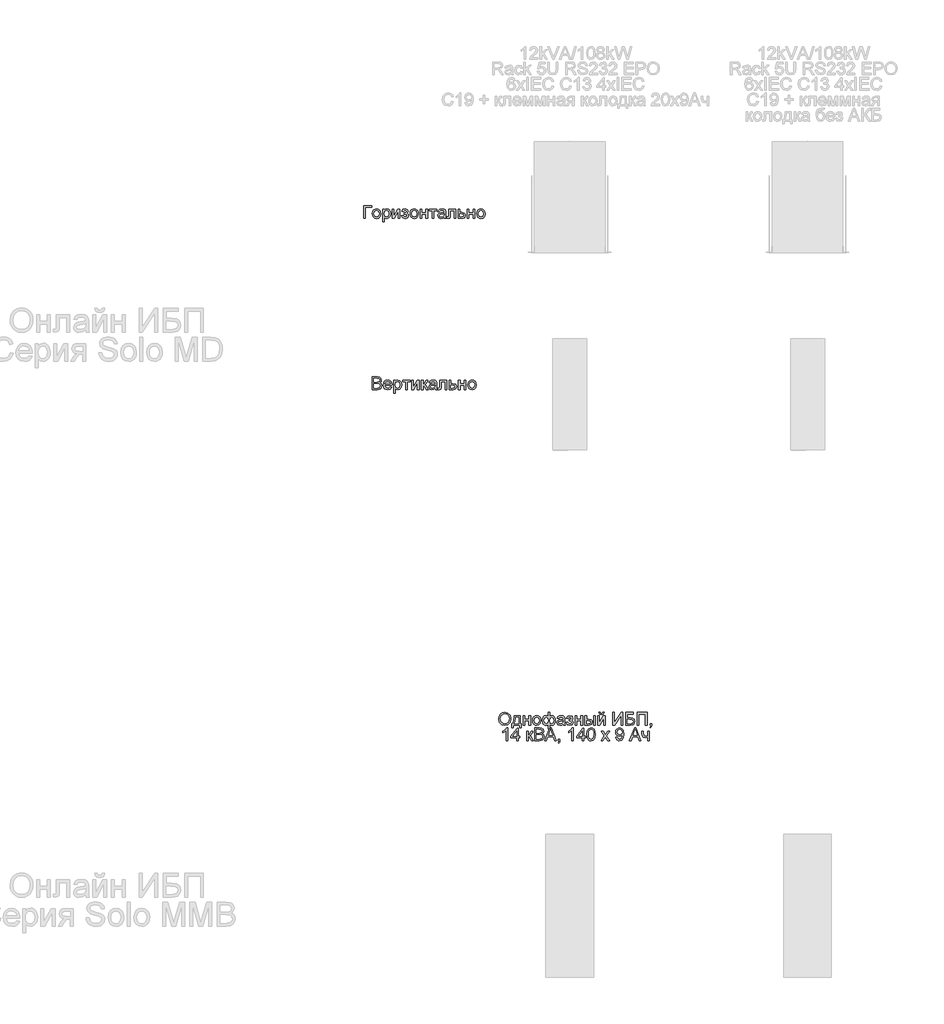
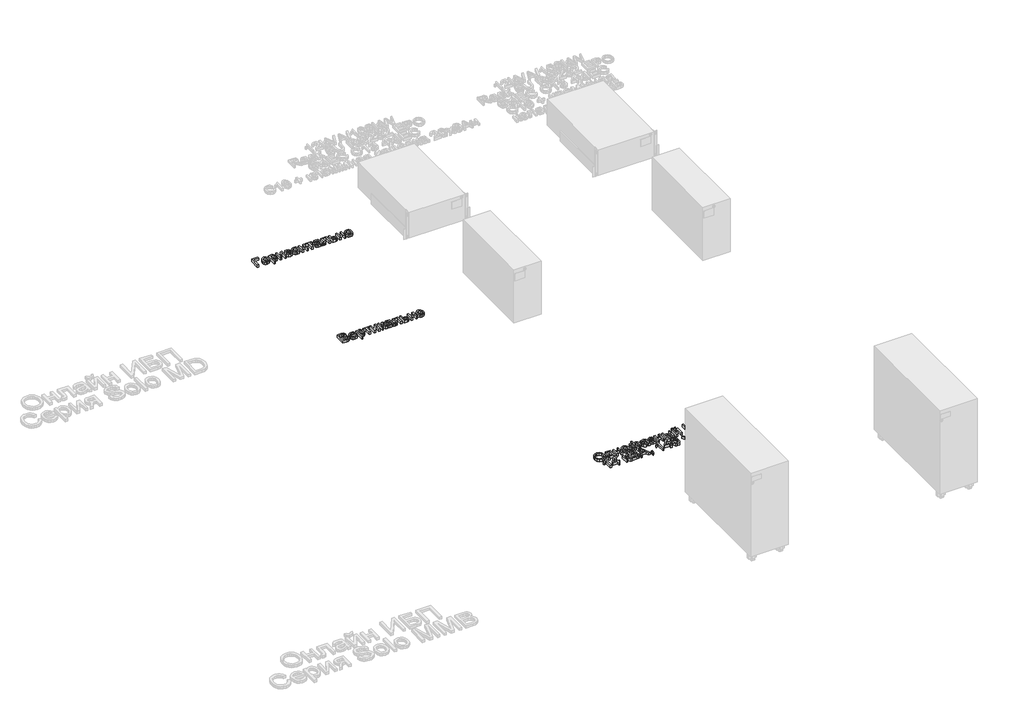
# One storey, part 52 of 74: 3 proxies.
"""IFC4 building model written with IfcOpenShell, lengths in millimetres."""

from ifc_helpers import new_model, si_unit, origin, origin_with_axes, place, context, project, spatial, polyline, outline, extrude, element, save

model = new_model("IFC4")

# Units and contexts
model_context = context("Model", 3, world=origin())
ifc_project = project(units=[si_unit("LENGTHUNIT", "METRE", prefix="MILLI")], contexts=[model_context])

# Site, building, storey
site = spatial("IfcSite", under=ifc_project)
building = spatial("IfcBuilding", under=site)
storey = spatial("IfcBuildingStorey", under=building, Name="Этаж 01", Elevation=0.0)

# Proxies
placement = place(None, origin())
element("IfcBuildingElementProxy", 1, Name="80 мм Arial", ObjectType="80 мм Arial", at=placement, inside=storey, context=model_context, shape_type="SweptSolid", body=[
    extrude(outline(polyline([(107.354428, -5410.0529622), (107.354428, -5329.6879141), (138.0210711, -5329.6879141), (153.0404667, -5332.052169), (161.9088753, -5339.3215172), (165.1168063, -5349.6025927), (162.419005, -5358.9909412), (154.26674, -5366.1033265), (164.1652182, -5373.598309), (167.6282141, -5386.0964867), (165.2639591, -5396.897502), (159.4072778, -5404.5886883), (150.6664016, -5408.6697259), (137.7856266, -5410.0529622), (107.354428, -5410.0529622)]), holes=[polyline([(117.400059, -5362.3362149), (135.7451078, -5362.3362149), (146.4578315, -5361.4729184), (152.9031241, -5357.7548577), (155.0711753, -5351.2114633), (153.0502769, -5344.6582587), (147.2622668, -5340.783235), (134.3520613, -5339.7335451), (117.400059, -5339.7335451), (117.400059, -5362.3362149)]), polyline([(117.400059, -5400.0073312), (138.0014507, -5400.0073312), (145.4571925, -5399.6149237), (151.7651425, -5397.4272521), (155.9442819, -5392.9636172), (157.5825831, -5386.1945885), (155.6597865, -5378.38568), (149.4303181, -5373.7258414), (137.0204321, -5372.3818459), (117.400059, -5372.3818459), (117.400059, -5400.0073312)])]), origin_with_axes(), (0.0, 0.0, 1.0), 20.0),
    extrude(outline(polyline([(221.5057586, -5392.4731079), (231.3551858, -5393.7288118), (222.1434207, -5406.6978784), (204.9854044, -5411.3086661), (193.1984653, -5409.3196507), (184.1289478, -5403.3526048), (178.3458429, -5393.7950305), (176.4181412, -5381.0344304), (178.3654633, -5367.8446346), (184.2074293, -5357.980492), (193.1543195, -5351.8295051), (204.4164136, -5349.7791761), (215.3277936, -5351.8246), (224.0465969, -5357.9608717), (229.7634831, -5367.8053938), (231.6691118, -5380.9755693), (231.6102507, -5383.6831808), (186.4637722, -5383.6831808), (192.2419721, -5396.7307289), (205.1816082, -5401.263035), (215.0310354, -5399.1636551), (221.5057586, -5392.4731079)]), holes=[polyline([(186.4637722, -5373.6375497), (221.6234808, -5373.6375497), (217.6013043, -5364.5336966), (204.3771729, -5359.8248071), (192.0065276, -5363.5821085), (186.4637722, -5373.6375497)])]), origin_with_axes(), (0.0, 0.0, 1.0), 20.0),
    extrude(outline(polyline([(241.7147428, -5432.655632), (241.7147428, -5351.03488), (251.7603738, -5351.03488), (251.7603738, -5360.8843072), (258.7059859, -5352.5554589), (268.0845242, -5349.7791761), (280.8181464, -5353.66401), (289.1371845, -5364.6121781), (291.9428979, -5380.0926525), (288.7742076, -5396.367752), (279.5722527, -5407.4532627), (266.8680611, -5411.3086661), (258.1271849, -5408.728587), (251.7603738, -5402.2048129), (251.7603738, -5432.655632), (241.7147428, -5432.655632)]), holes=[polyline([(251.7603738, -5381.01481), (256.1062865, -5396.318701), (266.652237, -5401.263035), (277.4140116, -5396.1421177), (281.8972669, -5380.2692358), (277.5219237, -5364.9261041), (267.0642648, -5359.8248071), (256.4005921, -5365.2498403), (251.7603738, -5381.01481)])]), origin_with_axes(), (0.0, 0.0, 1.0), 20.0),
    extrude(outline(polyline([(298.2214173, -5351.03488), (345.9381646, -5351.03488), (345.9381646, -5361.080511), (327.1026064, -5361.080511), (327.1026064, -5410.0529622), (317.0569754, -5410.0529622), (317.0569754, -5361.080511), (298.2214173, -5361.080511), (298.2214173, -5351.03488)])), origin_with_axes(), (0.0, 0.0, 1.0), 20.0),
    extrude(outline(polyline([(354.7280917, -5351.03488), (364.7737228, -5351.03488), (364.7737228, -5396.0440158), (389.4561521, -5351.03488), (402.4448391, -5351.03488), (402.4448391, -5410.0529622), (392.399208, -5410.0529622), (392.399208, -5365.3185116), (367.8737417, -5410.0529622), (354.7280917, -5410.0529622), (354.7280917, -5351.03488)])), origin_with_axes(), (0.0, 0.0, 1.0), 20.0),
    extrude(outline(polyline([(417.5132856, -5351.03488), (427.5589166, -5351.03488), (427.5589166, -5376.1489575), (434.2887046, -5374.3438832), (439.8020294, -5363.8273632), (444.3833865, -5354.7529407), (448.4251834, -5351.8000745), (455.7730131, -5351.03488), (457.6958096, -5351.03488), (457.6958096, -5361.1393721), (454.9881982, -5361.080511), (450.0831049, -5362.1400111), (446.6299192, -5368.7520769), (442.5783122, -5375.9037028), (436.8982142, -5379.4059394), (443.2355947, -5383.3152988), (449.455253, -5391.5509504), (460.2072174, -5410.0529622), (448.7881603, -5410.0529622), (438.2520199, -5391.9433578), (432.9545192, -5384.2816021), (427.5589166, -5382.4274769), (427.5589166, -5410.0529622), (417.5132856, -5410.0529622), (417.5132856, -5351.03488)])), origin_with_axes(), (0.0, 0.0, 1.0), 20.0),
    extrude(outline(polyline([(504.1568531, -5402.5187389), (494.4153379, -5409.3270084), (483.6535632, -5411.3086661), (469.0658158, -5406.5409154), (463.974329, -5394.3566637), (465.8971256, -5386.4104126), (470.9493717, -5380.6420229), (477.9832754, -5377.3458003), (486.6751007, -5375.8350315), (504.097992, -5372.3818459), (504.1568531, -5370.1451233), (501.3903805, -5362.7286223), (490.2852493, -5359.8248071), (480.1218961, -5361.7574138), (475.2756639, -5368.6147342), (465.2300329, -5367.3590304), (469.5759455, -5357.5488438), (478.3266319, -5351.8000745), (491.5801939, -5349.7791761), (503.7546354, -5351.56463), (510.6315762, -5356.0478853), (513.7119748, -5362.8659649), (514.2024841, -5371.6558921), (514.2024841, -5384.1540697), (514.7126138, -5401.6063916), (516.7138919, -5410.0529622), (506.6682608, -5410.0529622), (504.1568531, -5402.5187389)]), holes=[polyline([(504.1568531, -5382.4274769), (487.9504249, -5385.5078755), (479.3076506, -5387.1363664), (475.3933862, -5389.7851168), (474.01996, -5393.6503303), (477.0120669, -5399.0851736), (485.7921839, -5401.263035), (495.9555371, -5398.8595393), (502.5087417, -5393.0420987), (504.097992, -5385.272431), (504.1568531, -5382.4274769)])]), origin_with_axes(), (0.0, 0.0, 1.0), 20.0),
    extrude(outline(polyline([(533.0380423, -5351.03488), (578.2433818, -5351.03488), (578.2433818, -5409.9941011), (568.1977508, -5409.9941011), (568.1977508, -5361.080511), (543.0836733, -5361.080511), (543.0836733, -5389.2357463), (542.4067704, -5402.2244333), (538.6887097, -5407.7083276), (529.8987826, -5410.0529622), (521.7367074, -5409.5428325), (521.7367074, -5400.0073312), (526.2297728, -5400.0073312), (530.7718892, -5399.3892894), (532.5867737, -5397.4272521), (533.0380423, -5388.6667555), (533.0380423, -5351.03488)])), origin_with_axes(), (0.0, 0.0, 1.0), 20.0),
    extrude(outline(polyline([(593.3118283, -5351.03488), (603.3574594, -5351.03488), (603.3574594, -5372.3818459), (614.9334795, -5372.3818459), (632.3956115, -5377.4144716), (636.9867788, -5383.4011379), (638.5171679, -5391.2958855), (633.3079589, -5404.5494475), (626.5364776, -5408.6770835), (616.6404519, -5410.0529622), (593.3118283, -5410.0529622), (593.3118283, -5351.03488)]), holes=[polyline([(603.3574594, -5400.0073312), (612.7359977, -5400.0073312), (624.8515781, -5397.8981411), (628.4715369, -5391.3155059), (625.793356, -5385.1350884), (613.9328404, -5382.4274769), (603.3574594, -5382.4274769), (603.3574594, -5400.0073312)])]), origin_with_axes(), (0.0, 0.0, 1.0), 20.0),
    extrude(outline(polyline([(651.0742067, -5351.03488), (661.1198377, -5351.03488), (661.1198377, -5373.6375497), (687.4896191, -5373.6375497), (687.4896191, -5351.03488), (697.5352501, -5351.03488), (697.5352501, -5410.0529622), (687.4896191, -5410.0529622), (687.4896191, -5383.6831808), (661.1198377, -5383.6831808), (661.1198377, -5410.0529622), (651.0742067, -5410.0529622), (651.0742067, -5351.03488)])), origin_with_axes(), (0.0, 0.0, 1.0), 20.0),
    extrude(outline(polyline([(710.0922889, -5380.5439211), (712.2652452, -5366.3142455), (718.7841142, -5356.3127603), (726.8382773, -5351.4125721), (736.4816907, -5349.7791761), (747.0349989, -5351.7681914), (755.4644016, -5357.7352374), (760.9899892, -5367.209425), (762.8318517, -5379.7198654), (759.5748698, -5397.5940253), (750.0884194, -5407.7083276), (736.4816907, -5411.3086661), (725.8008501, -5409.3270084), (717.3812575, -5403.3820353), (711.914531, -5393.7091914), (710.0922889, -5380.5439211)]), holes=[polyline([(720.1379199, -5380.5243007), (724.7879483, -5396.0930667), (736.4816907, -5401.263035), (748.1361923, -5396.0636362), (752.7862207, -5380.2103747), (748.1067617, -5364.9947754), (736.4816907, -5359.8248071), (724.7879483, -5364.975155), (720.1379199, -5380.5243007)])]), origin_with_axes(), (0.0, 0.0, 1.0), 20.0),
])
element("IfcBuildingElementProxy", 2, Name="80 мм Arial", ObjectType="80 мм Arial", at=placement, inside=storey, context=model_context, shape_type="SweptSolid", body=[
    extrude(outline(polyline([(52.7313094, -4249.6879141), (102.9594644, -4249.6879141), (102.9594644, -4259.7335451), (62.7769404, -4259.7335451), (62.7769404, -4330.0529622), (52.7313094, -4330.0529622), (52.7313094, -4249.6879141)])), origin_with_axes(), (0.0, 0.0, 1.0), 20.0),
    extrude(outline(polyline([(107.9822799, -4300.5439211), (110.1552363, -4286.3142455), (116.6741052, -4276.3127603), (124.7282684, -4271.4125721), (134.3716817, -4269.7791761), (144.9249899, -4271.7681914), (153.3543927, -4277.7352374), (158.8799802, -4287.209425), (160.7218428, -4299.7198654), (157.4648608, -4317.5940253), (147.9784105, -4327.7083276), (134.3716817, -4331.3086661), (123.6908411, -4329.3270084), (115.2712485, -4323.3820353), (109.8045221, -4313.7091914), (107.9822799, -4300.5439211)]), holes=[polyline([(118.027911, -4300.5243007), (122.6779394, -4316.0930667), (134.3716817, -4321.263035), (146.0261833, -4316.0636362), (150.6762117, -4300.2103747), (145.9967528, -4284.9947754), (134.3716817, -4279.8248071), (122.6779394, -4284.975155), (118.027911, -4300.5243007)])]), origin_with_axes(), (0.0, 0.0, 1.0), 20.0),
    extrude(outline(polyline([(172.0231777, -4352.655632), (172.0231777, -4271.03488), (182.0688087, -4271.03488), (182.0688087, -4280.8843072), (189.0144207, -4272.5554589), (198.3929591, -4269.7791761), (211.1265812, -4273.66401), (219.4456194, -4284.6121781), (222.2513327, -4300.0926525), (219.0826425, -4316.367752), (209.8806875, -4327.4532627), (197.1764959, -4331.3086661), (188.4356197, -4328.728587), (182.0688087, -4322.2048129), (182.0688087, -4352.655632), (172.0231777, -4352.655632)]), holes=[polyline([(182.0688087, -4301.01481), (186.4147213, -4316.318701), (196.9606718, -4321.263035), (207.7224465, -4316.1421177), (212.2057017, -4300.2692358), (207.8303585, -4284.9261041), (197.3726997, -4279.8248071), (186.7090269, -4285.2498403), (182.0688087, -4301.01481)])]), origin_with_axes(), (0.0, 0.0, 1.0), 20.0),
    extrude(outline(polyline([(233.5526676, -4271.03488), (243.5982986, -4271.03488), (243.5982986, -4316.0440158), (268.280728, -4271.03488), (281.2694149, -4271.03488), (281.2694149, -4330.0529622), (271.2237839, -4330.0529622), (271.2237839, -4285.3185116), (246.6983176, -4330.0529622), (233.5526676, -4330.0529622), (233.5526676, -4271.03488)])), origin_with_axes(), (0.0, 0.0, 1.0), 20.0),
    extrude(outline(polyline([(310.1506041, -4303.6831808), (310.1506041, -4293.6375497), (318.0772348, -4293.2451423), (322.0797909, -4291.1555726), (323.9633468, -4286.7900395), (321.4421288, -4281.7181731), (314.9379751, -4279.8248071), (308.2179974, -4281.7083629), (303.8720847, -4287.3590304), (292.5707498, -4286.1033265), (300.1245935, -4273.8602137), (313.9177157, -4269.7791761), (328.6722363, -4274.7529407), (334.0089778, -4286.6330766), (332.1107067, -4292.8723552), (326.4158934, -4297.698967), (333.0573897, -4303.957866), (335.2646816, -4312.9636172), (333.8642775, -4320.3580453), (329.6630651, -4326.2171792), (313.9961972, -4331.3086661), (298.5451534, -4326.5997765), (291.315046, -4312.4731079), (302.6163809, -4311.217404), (307.148687, -4318.633905), (314.9575955, -4321.263035), (322.295615, -4318.7418171), (325.2190506, -4312.2965245), (323.4041661, -4307.0186442), (319.5389526, -4304.1933105), (312.1126414, -4303.6243196), (310.1506041, -4303.6831808)])), origin_with_axes(), (0.0, 0.0, 1.0), 20.0),
    extrude(outline(polyline([(345.3103127, -4300.5439211), (347.483269, -4286.3142455), (354.0021379, -4276.3127603), (362.0563011, -4271.4125721), (371.6997145, -4269.7791761), (382.2530226, -4271.7681914), (390.6824254, -4277.7352374), (396.208013, -4287.209425), (398.0498755, -4299.7198654), (394.7928936, -4317.5940253), (385.3064432, -4327.7083276), (371.6997145, -4331.3086661), (361.0188739, -4329.3270084), (352.5992813, -4323.3820353), (347.1325548, -4313.7091914), (345.3103127, -4300.5439211)]), holes=[polyline([(355.3559437, -4300.5243007), (360.0059721, -4316.0930667), (371.6997145, -4321.263035), (383.3542161, -4316.0636362), (388.0042445, -4300.2103747), (383.3247855, -4284.9947754), (371.6997145, -4279.8248071), (360.0059721, -4284.975155), (355.3559437, -4300.5243007)])]), origin_with_axes(), (0.0, 0.0, 1.0), 20.0),
    extrude(outline(polyline([(409.3512104, -4271.03488), (419.3968414, -4271.03488), (419.3968414, -4293.6375497), (445.7666228, -4293.6375497), (445.7666228, -4271.03488), (455.8122538, -4271.03488), (455.8122538, -4330.0529622), (445.7666228, -4330.0529622), (445.7666228, -4303.6831808), (419.3968414, -4303.6831808), (419.3968414, -4330.0529622), (409.3512104, -4330.0529622), (409.3512104, -4271.03488)])), origin_with_axes(), (0.0, 0.0, 1.0), 20.0),
    extrude(outline(polyline([(465.8578848, -4271.03488), (513.5746322, -4271.03488), (513.5746322, -4281.080511), (494.739074, -4281.080511), (494.739074, -4330.0529622), (484.693443, -4330.0529622), (484.693443, -4281.080511), (465.8578848, -4281.080511), (465.8578848, -4271.03488)])), origin_with_axes(), (0.0, 0.0, 1.0), 20.0),
    extrude(outline(polyline([(560.0356756, -4322.5187389), (550.2941604, -4329.3270084), (539.5323857, -4331.3086661), (524.9446384, -4326.5409154), (519.8531515, -4314.3566637), (521.7759481, -4306.4104126), (526.8281942, -4300.6420229), (533.8620979, -4297.3458003), (542.5539232, -4295.8350315), (559.9768145, -4292.3818459), (560.0356756, -4290.1451233), (557.269203, -4282.7286223), (546.1640718, -4279.8248071), (536.0007186, -4281.7574138), (531.1544864, -4288.6147342), (521.1088554, -4287.3590304), (525.4547681, -4277.5488438), (534.2054545, -4271.8000745), (547.4590165, -4269.7791761), (559.633458, -4271.56463), (566.5103987, -4276.0478853), (569.5907973, -4282.8659649), (570.0813066, -4291.6558921), (570.0813066, -4304.1540697), (570.5914363, -4321.6063916), (572.5927144, -4330.0529622), (562.5470834, -4330.0529622), (560.0356756, -4322.5187389)]), holes=[polyline([(560.0356756, -4302.4274769), (543.8292474, -4305.5078755), (535.1864731, -4307.1363664), (531.2722087, -4309.7851168), (529.8987826, -4313.6503303), (532.8908895, -4319.0851736), (541.6710064, -4321.263035), (551.8343597, -4318.8595393), (558.3875643, -4313.0420987), (559.9768145, -4305.272431), (560.0356756, -4302.4274769)])]), origin_with_axes(), (0.0, 0.0, 1.0), 20.0),
    extrude(outline(polyline([(588.9168648, -4271.03488), (634.1222043, -4271.03488), (634.1222043, -4329.9941011), (624.0765733, -4329.9941011), (624.0765733, -4281.080511), (598.9624958, -4281.080511), (598.9624958, -4309.2357463), (598.2855929, -4322.2244333), (594.5675322, -4327.7083276), (585.7776051, -4330.0529622), (577.6155299, -4329.5428325), (577.6155299, -4320.0073312), (582.1085953, -4320.0073312), (586.6507117, -4319.3892894), (588.4655962, -4317.4272521), (588.9168648, -4308.6667555), (588.9168648, -4271.03488)])), origin_with_axes(), (0.0, 0.0, 1.0), 20.0),
    extrude(outline(polyline([(649.1906509, -4271.03488), (659.2362819, -4271.03488), (659.2362819, -4292.3818459), (670.812302, -4292.3818459), (688.274434, -4297.4144716), (692.8656013, -4303.4011379), (694.3959904, -4311.2958855), (689.1867814, -4324.5494475), (682.4153001, -4328.6770835), (672.5192745, -4330.0529622), (649.1906509, -4330.0529622), (649.1906509, -4271.03488)]), holes=[polyline([(659.2362819, -4320.0073312), (668.6148202, -4320.0073312), (680.7304006, -4317.8981411), (684.3503594, -4311.3155059), (681.6721785, -4305.1350884), (669.811663, -4302.4274769), (659.2362819, -4302.4274769), (659.2362819, -4320.0073312)])]), origin_with_axes(), (0.0, 0.0, 1.0), 20.0),
    extrude(outline(polyline([(706.9530292, -4271.03488), (716.9986602, -4271.03488), (716.9986602, -4293.6375497), (743.3684416, -4293.6375497), (743.3684416, -4271.03488), (753.4140726, -4271.03488), (753.4140726, -4330.0529622), (743.3684416, -4330.0529622), (743.3684416, -4303.6831808), (716.9986602, -4303.6831808), (716.9986602, -4330.0529622), (706.9530292, -4330.0529622), (706.9530292, -4271.03488)])), origin_with_axes(), (0.0, 0.0, 1.0), 20.0),
    extrude(outline(polyline([(765.9711114, -4300.5439211), (768.1440677, -4286.3142455), (774.6629367, -4276.3127603), (782.7170998, -4271.4125721), (792.3605132, -4269.7791761), (802.9138214, -4271.7681914), (811.3432242, -4277.7352374), (816.8688117, -4287.209425), (818.7106742, -4299.7198654), (815.4536923, -4317.5940253), (805.9672419, -4327.7083276), (792.3605132, -4331.3086661), (781.6796726, -4329.3270084), (773.26008, -4323.3820353), (767.7933536, -4313.7091914), (765.9711114, -4300.5439211)]), holes=[polyline([(776.0167424, -4300.5243007), (780.6667708, -4316.0930667), (792.3605132, -4321.263035), (804.0150148, -4316.0636362), (808.6650432, -4300.2103747), (803.9855843, -4284.9947754), (792.3605132, -4279.8248071), (780.6667708, -4284.975155), (776.0167424, -4300.5243007)])]), origin_with_axes(), (0.0, 0.0, 1.0), 20.0),
])
element("IfcBuildingElementProxy", 3, Name="80 мм Arial", ObjectType="80 мм Arial", at=placement, inside=storey, context=model_context, shape_type="SweptSolid", body=[
    extrude(outline(polyline([(904.7528203, -7487.510302), (907.4310012, -7469.7391491), (915.465544, -7456.2942885), (927.7331822, -7447.8330026), (943.1106496, -7445.012574), (963.1038098, -7450.3100747), (976.681108, -7465.0842156), (981.3507567, -7486.5881445), (976.4358533, -7508.386379), (962.5053884, -7522.9446958), (943.0517885, -7527.8890298), (922.8428042, -7522.4247559), (909.3439876, -7507.5132724), (904.7528203, -7487.510302)]), holes=[polyline([(914.7984513, -7487.6084039), (916.807087, -7500.180158), (922.832994, -7509.7598051), (931.8902488, -7515.8225004), (942.9929274, -7517.8433988), (954.2574741, -7515.80288), (963.3294441, -7509.6813236), (969.3112053, -7499.8073709), (971.3051257, -7486.509663), (967.8911808, -7469.9304478), (957.9142211, -7458.952849), (943.1695107, -7455.058205), (932.3635903, -7456.9344032), (923.1763506, -7462.5629977), (916.8929261, -7472.5767456), (914.7984513, -7487.6084039)])]), origin_with_axes(), (0.0, 0.0, 1.0), 20.0),
    extrude(outline(polyline([(1002.6977227, -7467.6152437), (1040.368839, -7467.6152437), (1040.368839, -7516.5876949), (1047.9030622, -7516.5876949), (1047.9030622, -7542.9574764), (1037.8574312, -7542.9574764), (1037.8574312, -7526.633326), (996.4192033, -7526.633326), (996.4192033, -7542.9574764), (986.3735723, -7542.9574764), (986.3735723, -7516.5876949), (992.6520916, -7516.5876949), (1000.4119492, -7497.4284006), (1002.6977227, -7467.6152437)]), holes=[polyline([(1011.4876498, -7477.6608748), (1009.133205, -7500.54804), (1003.9534265, -7516.5876949), (1030.3232079, -7516.5876949), (1030.3232079, -7477.6608748), (1011.4876498, -7477.6608748)])]), origin_with_axes(), (0.0, 0.0, 1.0), 20.0),
    extrude(outline(polyline([(1059.2043971, -7467.6152437), (1069.2500281, -7467.6152437), (1069.2500281, -7490.2179135), (1095.6198095, -7490.2179135), (1095.6198095, -7467.6152437), (1105.6654406, -7467.6152437), (1105.6654406, -7526.633326), (1095.6198095, -7526.633326), (1095.6198095, -7500.2635445), (1069.2500281, -7500.2635445), (1069.2500281, -7526.633326), (1059.2043971, -7526.633326), (1059.2043971, -7467.6152437)])), origin_with_axes(), (0.0, 0.0, 1.0), 20.0),
    extrude(outline(polyline([(1118.2224793, -7497.1242849), (1120.3954356, -7482.8946093), (1126.9143046, -7472.8931241), (1134.9684677, -7467.9929359), (1144.6118811, -7466.3595399), (1155.1651893, -7468.3485552), (1163.5945921, -7474.3156012), (1169.1201796, -7483.7897888), (1170.9620422, -7496.3002292), (1167.7050602, -7514.1743891), (1158.2186098, -7524.2886914), (1144.6118811, -7527.8890298), (1133.9310405, -7525.9073722), (1125.5114479, -7519.9623991), (1120.0447215, -7510.2895552), (1118.2224793, -7497.1242849)]), holes=[polyline([(1128.2681103, -7497.1046645), (1132.9181388, -7512.6734305), (1144.6118811, -7517.8433988), (1156.2663827, -7512.644), (1160.9164111, -7496.7907385), (1156.2369522, -7481.5751392), (1144.6118811, -7476.4051709), (1132.9181388, -7481.5555188), (1128.2681103, -7497.1046645)])]), origin_with_axes(), (0.0, 0.0, 1.0), 20.0),
    extrude(outline(polyline([(1216.1673817, -7446.2682778), (1226.2130127, -7446.2682778), (1226.2130127, -7473.2855316), (1232.5994442, -7468.0763225), (1240.0846165, -7466.3595399), (1248.8769962, -7468.5423064), (1255.6337622, -7475.0906059), (1259.9379815, -7484.9498434), (1261.3727213, -7497.0654237), (1259.8276169, -7509.5513387), (1255.1923038, -7519.3835981), (1248.261407, -7525.7626719), (1239.8295517, -7527.8890298), (1233.6883749, -7526.9080112), (1226.2130127, -7521.5516493), (1226.2130127, -7549.2359957), (1216.1673817, -7549.2359957), (1216.1673817, -7521.5516493), (1209.7515197, -7526.2997796), (1202.1584353, -7527.8890298), (1193.7412953, -7525.8583212), (1186.4621369, -7519.7661954), (1181.4295112, -7509.8922426), (1179.7519693, -7496.5160533), (1181.2700957, -7484.7389243), (1185.8244748, -7475.0317448), (1192.9442176, -7468.5275911), (1202.1584353, -7466.3595399), (1209.9379133, -7468.0763225), (1216.1673817, -7473.2855316), (1216.1673817, -7446.2682778)]), holes=[polyline([(1226.1541516, -7497.3008682), (1229.4994252, -7513.6544492), (1237.8871347, -7517.8433988), (1247.3932055, -7512.6930509), (1251.3270903, -7496.6926366), (1247.6973213, -7481.4279864), (1238.377644, -7476.4051709), (1229.22474, -7481.6340003), (1226.1541516, -7497.3008682)]), polyline([(1189.7976003, -7496.3002292), (1193.8197768, -7512.8009629), (1203.8065467, -7517.8433988), (1213.1360341, -7512.8303935), (1216.2262428, -7497.7913775), (1212.9790711, -7481.7517225), (1203.1786947, -7476.4051709), (1193.5254712, -7481.6241901), (1189.7976003, -7496.3002292)])]), origin_with_axes(), (0.0, 0.0, 1.0), 20.0),
    extrude(outline(polyline([(1311.6008764, -7519.0991027), (1301.8593611, -7525.9073722), (1291.0975865, -7527.8890298), (1276.5098391, -7523.1212792), (1271.4183523, -7510.9370275), (1273.3411489, -7502.9907764), (1278.3933949, -7497.2223867), (1285.4272987, -7493.926164), (1294.119124, -7492.4153953), (1311.5420152, -7488.9622097), (1311.6008764, -7486.7254871), (1308.8344038, -7479.3089861), (1297.7292726, -7476.4051709), (1287.5659193, -7478.3377776), (1282.7196872, -7485.195098), (1272.6740562, -7483.9393941), (1277.0199688, -7474.1292076), (1285.7706552, -7468.3804383), (1299.0242172, -7466.3595399), (1311.1986587, -7468.1449938), (1318.0755995, -7472.6282491), (1321.1559981, -7479.4463287), (1321.6465074, -7488.2362559), (1321.6465074, -7500.7344335), (1322.1566371, -7518.1867554), (1324.1579151, -7526.633326), (1314.1122841, -7526.633326), (1311.6008764, -7519.0991027)]), holes=[polyline([(1311.6008764, -7499.0078407), (1295.3944482, -7502.0882392), (1286.7516739, -7503.7167302), (1282.8374094, -7506.3654806), (1281.4639833, -7510.2306941), (1284.4560902, -7515.6655374), (1293.2362072, -7517.8433988), (1303.3995604, -7515.4399031), (1309.952765, -7509.6224625), (1311.5420152, -7501.8527948), (1311.6008764, -7499.0078407)])]), origin_with_axes(), (0.0, 0.0, 1.0), 20.0),
    extrude(outline(polyline([(1349.2719927, -7500.2635445), (1349.2719927, -7490.2179135), (1357.1986234, -7489.8255061), (1361.2011795, -7487.7359363), (1363.0847353, -7483.3704033), (1360.5635174, -7478.2985369), (1354.0593637, -7476.4051709), (1347.3393859, -7478.2887267), (1342.9934733, -7483.9393941), (1331.6921384, -7482.6836903), (1339.245982, -7470.4405775), (1353.0391043, -7466.3595399), (1367.7936249, -7471.3333044), (1373.1303663, -7483.2134403), (1371.2320952, -7489.452719), (1365.537282, -7494.2793308), (1372.1787782, -7500.5382298), (1374.3860702, -7509.543981), (1372.9856661, -7516.9384091), (1368.7844537, -7522.797543), (1353.1175858, -7527.8890298), (1337.666542, -7523.1801403), (1330.4364345, -7509.0534717), (1341.7377694, -7507.7977678), (1346.2700756, -7515.2142688), (1354.0789841, -7517.8433988), (1361.4170036, -7515.3221809), (1364.3404392, -7508.8768883), (1362.5255547, -7503.599008), (1358.6603412, -7500.7736742), (1351.23403, -7500.2046834), (1349.2719927, -7500.2635445)])), origin_with_axes(), (0.0, 0.0, 1.0), 20.0),
    extrude(outline(polyline([(1386.943109, -7467.6152437), (1396.98874, -7467.6152437), (1396.98874, -7490.2179135), (1423.3585214, -7490.2179135), (1423.3585214, -7467.6152437), (1433.4041524, -7467.6152437), (1433.4041524, -7526.633326), (1423.3585214, -7526.633326), (1423.3585214, -7500.2635445), (1396.98874, -7500.2635445), (1396.98874, -7526.633326), (1386.943109, -7526.633326), (1386.943109, -7467.6152437)])), origin_with_axes(), (0.0, 0.0, 1.0), 20.0),
    extrude(outline(polyline([(1503.7235695, -7467.6152437), (1513.7692005, -7467.6152437), (1513.7692005, -7526.633326), (1503.7235695, -7526.633326), (1503.7235695, -7467.6152437)])), origin_with_axes(), (0.0, 0.0, 1.0), 20.0),
    extrude(outline(polyline([(1448.4725989, -7467.6152437), (1458.51823, -7467.6152437), (1458.51823, -7488.9622097), (1470.9379261, -7488.9622097), (1489.6263315, -7493.9948353), (1494.5485926, -7499.9815017), (1496.1893463, -7507.8762493), (1490.6858316, -7521.1298113), (1483.5366582, -7525.2574473), (1473.0961672, -7526.633326), (1448.4725989, -7526.633326), (1448.4725989, -7467.6152437)]), holes=[polyline([(1458.51823, -7516.5876949), (1468.8385462, -7516.5876949), (1482.1607795, -7514.4785048), (1486.1437152, -7507.8958697), (1483.1908491, -7501.7154522), (1470.1531112, -7499.0078407), (1458.51823, -7499.0078407), (1458.51823, -7516.5876949)])]), origin_with_axes(), (0.0, 0.0, 1.0), 20.0),
    extrude(outline(polyline([(1528.8376471, -7467.6152437), (1538.8832781, -7467.6152437), (1538.8832781, -7512.6243796), (1563.5657074, -7467.6152437), (1576.5543944, -7467.6152437), (1576.5543944, -7526.633326), (1566.5087634, -7526.633326), (1566.5087634, -7481.8988753), (1541.983297, -7526.633326), (1528.8376471, -7526.633326), (1528.8376471, -7467.6152437)])), origin_with_axes(), (0.0, 0.0, 1.0), 20.0),
    extrude(outline(polyline([(1561.4859479, -7446.2682778), (1569.0201711, -7446.2682778), (1564.1445084, -7457.4420803), (1553.3238727, -7461.3367244), (1541.6105099, -7457.4715109), (1536.3718703, -7446.2682778), (1543.9060936, -7446.2682778), (1546.7314273, -7451.9287555), (1552.4213355, -7453.8025011), (1558.6606141, -7451.9876166), (1561.4859479, -7446.2682778)])), origin_with_axes(), (0.0, 0.0, 1.0), 20.0),
    extrude(outline(polyline([(1624.2711417, -7446.2682778), (1634.3167727, -7446.2682778), (1634.3167727, -7509.9167681), (1676.3828526, -7446.2682778), (1687.0563355, -7446.2682778), (1687.0563355, -7526.633326), (1677.0107045, -7526.633326), (1677.0107045, -7463.1614191), (1635.0427265, -7526.633326), (1624.2711417, -7526.633326), (1624.2711417, -7446.2682778)])), origin_with_axes(), (0.0, 0.0, 1.0), 20.0),
    extrude(outline(polyline([(1704.6361898, -7446.2682778), (1754.8643449, -7446.2682778), (1754.8643449, -7456.3139089), (1714.6818208, -7456.3139089), (1714.6818208, -7480.1722825), (1733.4977586, -7480.1722825), (1750.0769739, -7482.2128013), (1759.9460215, -7489.9236079), (1763.654272, -7503.1084986), (1761.0153319, -7514.5569863), (1753.1377521, -7523.2586218), (1735.3028329, -7526.633326), (1704.6361898, -7526.633326), (1704.6361898, -7446.2682778)]), holes=[polyline([(1714.6818208, -7516.5876949), (1736.2053701, -7516.5876949), (1749.2529182, -7513.2718519), (1753.608641, -7503.3243227), (1751.1168536, -7495.4565531), (1744.1810518, -7491.2577933), (1729.0439339, -7490.2179135), (1714.6818208, -7490.2179135), (1714.6818208, -7516.5876949)])]), origin_with_axes(), (0.0, 0.0, 1.0), 20.0),
    extrude(outline(polyline([(1777.4670147, -7446.2682778), (1840.2522085, -7446.2682778), (1840.2522085, -7526.633326), (1830.2065775, -7526.633326), (1830.2065775, -7456.3139089), (1787.5126457, -7456.3139089), (1787.5126457, -7526.633326), (1777.4670147, -7526.633326), (1777.4670147, -7446.2682778)])), origin_with_axes(), (0.0, 0.0, 1.0), 20.0),
    extrude(outline(polyline([(1859.0877667, -7526.633326), (1859.0877667, -7516.5876949), (1869.1333977, -7516.5876949), (1869.1333977, -7526.633326), (1867.3283234, -7536.9045913), (1861.5991744, -7542.9574764), (1859.0877667, -7539.1903647), (1862.7763968, -7534.8542623), (1864.0909618, -7526.633326), (1859.0877667, -7526.633326)])), origin_with_axes(), (0.0, 0.0, 1.0), 20.0),
    extrude(outline(polyline([(961.2594947, -7624.2131802), (951.2138637, -7624.2131802), (951.2138637, -7561.5849494), (941.6979828, -7568.3637883), (931.1226017, -7573.4356547), (931.1226017, -7563.9393941), (945.8476917, -7554.5412354), (954.7847716, -7543.8481321), (961.2594947, -7543.8481321), (961.2594947, -7624.2131802)])), origin_with_axes(), (0.0, 0.0, 1.0), 20.0),
    extrude(outline(polyline([(1017.7661692, -7624.2131802), (1017.7661692, -7605.3776221), (981.3507567, -7605.3776221), (981.3507567, -7595.3319911), (1020.2775769, -7545.103836), (1027.8118002, -7545.103836), (1027.8118002, -7595.3319911), (1037.8574312, -7595.3319911), (1037.8574312, -7605.3776221), (1027.8118002, -7605.3776221), (1027.8118002, -7624.2131802), (1017.7661692, -7624.2131802)]), holes=[polyline([(1017.7661692, -7595.3319911), (1017.7661692, -7564.2925609), (993.7115918, -7595.3319911), (1017.7661692, -7595.3319911)])]), origin_with_axes(), (0.0, 0.0, 1.0), 20.0),
    extrude(outline(polyline([(1080.551363, -7565.195098), (1090.596994, -7565.195098), (1090.596994, -7590.3091756), (1097.326782, -7588.5041012), (1102.8401068, -7577.9875813), (1107.4214639, -7568.9131587), (1111.4632608, -7565.9602926), (1118.8110905, -7565.195098), (1120.7338871, -7565.195098), (1120.7338871, -7575.2995902), (1118.0262756, -7575.240729), (1113.1211823, -7576.3002292), (1109.6679967, -7582.9122949), (1105.6163896, -7590.0639209), (1099.9362916, -7593.5661575), (1106.2736721, -7597.4755168), (1112.4933304, -7605.7111684), (1123.2452948, -7624.2131802), (1111.8262377, -7624.2131802), (1101.2900974, -7606.1035759), (1095.9925966, -7598.4418202), (1090.596994, -7596.5876949), (1090.596994, -7624.2131802), (1080.551363, -7624.2131802), (1080.551363, -7565.195098)])), origin_with_axes(), (0.0, 0.0, 1.0), 20.0),
    extrude(outline(polyline([(1130.7795181, -7624.2131802), (1130.7795181, -7543.8481321), (1161.4461612, -7543.8481321), (1176.4655568, -7546.2123871), (1185.3339654, -7553.4817353), (1188.5418964, -7563.7628108), (1185.8440951, -7573.1511593), (1177.6918301, -7580.2635445), (1187.5903083, -7587.7585271), (1191.0533042, -7600.2567047), (1188.6890492, -7611.0577201), (1182.8323679, -7618.7489063), (1174.0914917, -7622.8299439), (1161.2107167, -7624.2131802), (1130.7795181, -7624.2131802)]), holes=[polyline([(1140.8251491, -7576.4964329), (1159.1701979, -7576.4964329), (1169.8829216, -7575.6331365), (1176.3282142, -7571.9150758), (1178.4962654, -7565.3716814), (1176.475367, -7558.8184768), (1170.6873569, -7554.9434531), (1157.7771514, -7553.8937631), (1140.8251491, -7553.8937631), (1140.8251491, -7576.4964329)]), polyline([(1140.8251491, -7614.1675492), (1161.4265408, -7614.1675492), (1168.8822826, -7613.7751418), (1175.1902326, -7611.5874702), (1179.369372, -7607.1238353), (1181.0076732, -7600.3548066), (1179.0848766, -7592.5458981), (1172.8554082, -7587.8860595), (1160.4455222, -7586.5420639), (1140.8251491, -7586.5420639), (1140.8251491, -7614.1675492)])]), origin_with_axes(), (0.0, 0.0, 1.0), 20.0),
    extrude(outline(polyline([(1195.5071289, -7624.2131802), (1227.5864389, -7543.8481321), (1236.1409215, -7543.8481321), (1268.2202315, -7624.2131802), (1257.6056097, -7624.2131802), (1248.4036547, -7599.0991027), (1215.3040853, -7599.0991027), (1206.1217507, -7624.2131802), (1195.5071289, -7624.2131802)]), holes=[polyline([(1218.9927154, -7589.0534717), (1244.7346449, -7589.0534717), (1237.4947273, -7569.295756), (1231.8636802, -7553.8937631), (1226.860485, -7567.5691632), (1218.9927154, -7589.0534717)])]), origin_with_axes(), (0.0, 0.0, 1.0), 20.0),
    extrude(outline(polyline([(1280.2082794, -7624.2131802), (1280.2082794, -7614.1675492), (1290.2539105, -7614.1675492), (1290.2539105, -7624.2131802), (1288.4488361, -7634.4844455), (1282.7196872, -7640.5373306), (1280.2082794, -7636.770219), (1283.8969096, -7632.4341166), (1285.2114746, -7624.2131802), (1280.2082794, -7624.2131802)])), origin_with_axes(), (0.0, 0.0, 1.0), 20.0),
    extrude(outline(polyline([(1375.6417741, -7624.2131802), (1365.5961431, -7624.2131802), (1365.5961431, -7561.5849494), (1356.0802621, -7568.3637883), (1345.504881, -7573.4356547), (1345.504881, -7563.9393941), (1360.229971, -7554.5412354), (1369.167051, -7543.8481321), (1375.6417741, -7543.8481321), (1375.6417741, -7624.2131802)])), origin_with_axes(), (0.0, 0.0, 1.0), 20.0),
    extrude(outline(polyline([(1432.1484485, -7624.2131802), (1432.1484485, -7605.3776221), (1395.7330361, -7605.3776221), (1395.7330361, -7595.3319911), (1434.6598563, -7545.103836), (1442.1940796, -7545.103836), (1442.1940796, -7595.3319911), (1452.2397106, -7595.3319911), (1452.2397106, -7605.3776221), (1442.1940796, -7605.3776221), (1442.1940796, -7624.2131802), (1432.1484485, -7624.2131802)]), holes=[polyline([(1432.1484485, -7595.3319911), (1432.1484485, -7564.2925609), (1408.0938712, -7595.3319911), (1432.1484485, -7595.3319911)])]), origin_with_axes(), (0.0, 0.0, 1.0), 20.0),
    extrude(outline(polyline([(1461.0296377, -7584.6781285), (1463.9825039, -7561.5555188), (1472.7528106, -7548.2234753), (1487.3994191, -7543.8481321), (1499.1324022, -7546.4380214), (1507.2356163, -7553.9035733), (1511.9445058, -7565.7935194), (1513.7692005, -7584.6781285), (1510.845765, -7607.7026363), (1502.1048887, -7621.0641104), (1487.3994191, -7625.4688841), (1476.9613806, -7623.5558977), (1469.0347499, -7617.8169386), (1463.0309158, -7604.2249252), (1461.0296377, -7584.6781285)]), holes=[polyline([(1471.0752687, -7584.6585081), (1472.2524911, -7600.4602661), (1475.7841583, -7609.6058125), (1487.3994191, -7615.4232531), (1499.01468, -7609.5861921), (1502.5463471, -7600.4357406), (1503.7235695, -7584.6585081), (1502.5855879, -7569.2123694), (1499.171643, -7559.9956992), (1493.9231932, -7555.4192471), (1487.2816969, -7553.8937631), (1475.9411213, -7559.2697454), (1472.2917319, -7569.0603115), (1471.0752687, -7584.6585081)])]), origin_with_axes(), (0.0, 0.0, 1.0), 20.0),
    extrude(outline(polyline([(1550.184613, -7624.2131802), (1571.6493011, -7594.5471761), (1551.4403168, -7565.195098), (1563.5264667, -7565.195098), (1573.2777921, -7579.3217666), (1577.8297186, -7585.9926935), (1581.7734136, -7580.5382298), (1592.8785448, -7565.195098), (1604.9646946, -7565.195098), (1583.7354509, -7594.5471761), (1604.1798797, -7624.2131802), (1592.0937299, -7624.2131802), (1579.7917559, -7606.3782611), (1577.535413, -7603.1212792), (1562.2707628, -7624.2131802), (1550.184613, -7624.2131802)])), origin_with_axes(), (0.0, 0.0, 1.0), 20.0),
    extrude(outline(polyline([(1643.1066999, -7604.1219182), (1653.1523309, -7602.8662143), (1657.6650167, -7612.4507666), (1666.2194993, -7615.4232531), (1674.352144, -7613.5102667), (1679.8654688, -7608.3991595), (1683.1518813, -7599.6680935), (1684.6037889, -7588.0135919), (1684.5449278, -7586.0515546), (1676.510385, -7593.6642594), (1665.4935455, -7596.5876949), (1656.3332839, -7594.802241), (1648.7083164, -7589.4458791), (1643.5653261, -7581.1709868), (1641.850996, -7570.6299414), (1643.6487127, -7559.7406343), (1649.0418627, -7551.205772), (1657.1426242, -7545.6875421), (1667.0631754, -7543.8481321), (1681.3762375, -7548.046892), (1691.2256648, -7560.0153195), (1694.5905588, -7582.5002671), (1691.235475, -7606.898201), (1681.2585153, -7620.7207538), (1665.7486104, -7625.4688841), (1657.1597921, -7624.06848), (1650.3073768, -7619.8672676), (1643.1066999, -7604.1219182)]), holes=[polyline([(1684.5449278, -7570.3944969), (1680.2088253, -7558.3475878), (1668.6916663, -7553.8937631), (1656.6055165, -7558.6909443), (1651.896627, -7571.1204507), (1656.3504517, -7582.2550124), (1668.4169811, -7586.5420639), (1680.0028114, -7582.2550124), (1684.5449278, -7570.3944969)])]), origin_with_axes(), (0.0, 0.0, 1.0), 20.0),
    extrude(outline(polyline([(1729.1812765, -7624.2131802), (1761.2605865, -7543.8481321), (1769.8150692, -7543.8481321), (1801.8943792, -7624.2131802), (1791.2797573, -7624.2131802), (1782.0778024, -7599.0991027), (1748.978233, -7599.0991027), (1739.7958984, -7624.2131802), (1729.1812765, -7624.2131802)]), holes=[polyline([(1752.6668631, -7589.0534717), (1778.4087926, -7589.0534717), (1771.1688749, -7569.295756), (1765.5378279, -7553.8937631), (1760.5346327, -7567.5691632), (1752.6668631, -7589.0534717)])]), origin_with_axes(), (0.0, 0.0, 1.0), 20.0),
    extrude(outline(polyline([(1807.6039077, -7565.195098), (1817.6495387, -7565.195098), (1817.6495387, -7576.5160533), (1818.4637842, -7587.1306751), (1822.3780487, -7592.8794444), (1830.1477164, -7595.3319911), (1844.0193202, -7592.2908332), (1844.0193202, -7565.195098), (1854.0649512, -7565.195098), (1854.0649512, -7624.2131802), (1844.0193202, -7624.2131802), (1844.0193202, -7601.9244364), (1827.4597253, -7605.3776221), (1816.0700987, -7601.7772836), (1809.3697413, -7592.9579259), (1807.6039077, -7581.4800077), (1807.6039077, -7565.195098)])), origin_with_axes(), (0.0, 0.0, 1.0), 20.0),
])

save(model, "model.ifc")
